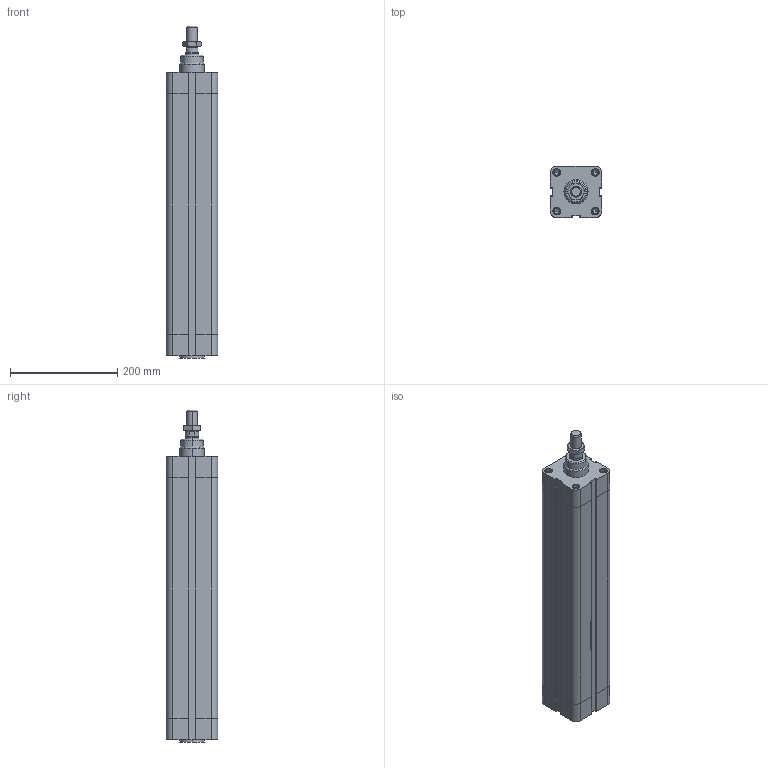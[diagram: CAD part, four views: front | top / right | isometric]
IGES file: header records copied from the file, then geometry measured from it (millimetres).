
Global section: file name: No Iges File Name specified; native system: AutoDesk Inventor R6.1; preprocessor: AutoDesk Inventor Iges Exporter R6.1; author: No Author specified; organization: No Organization specified; date: 20040107.171329; units: millimetre
Bounding box: 95.5 x 95.5 x 618 mm (x, y, z)
Volume: 4685272.3 mm3; surface area: 325690.2 mm2
Topology: 3 solids, 3 shells, 244 faces, 570 edges, 356 vertices
Faces by surface type: plane 83, bspline 67, cylinder 34, revolution 34, cone 24, torus 2
